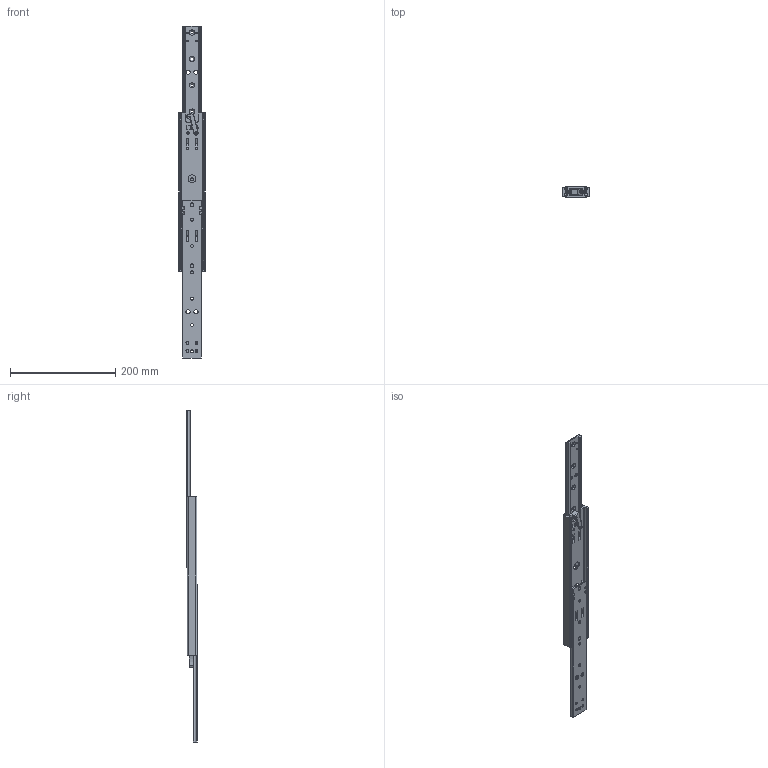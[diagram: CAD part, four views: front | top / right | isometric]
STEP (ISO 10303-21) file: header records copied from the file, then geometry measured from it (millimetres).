
FILE_DESCRIPTION (( 'STEP AP214' ), '1' );
FILE_NAME ('220-300-open.STEP', '2022-03-25T10:33:59', ( '' ), ( '' ), 'SwSTEP 2.0', 'SolidWorks 2021', '' );
FILE_SCHEMA (( 'AUTOMOTIVE_DESIGN' ));
Length unit declared in the file: millimetre
Products named in the file (12): 61_12279_02.STEP; 61_12282.STEP; 61_12280_02_Beam Assembled - Stop Raises .STEP; 370_002_070.STEP; 61_12276.STEP; 301_000_008_Fitted.STEP; 400_000_004.STEP; 61_12719.STEP; 61_12274.STEP; 220-300-open; 61_13331_Pin Fitted.STEP; 61_12278_02.STEP
Assembly tree (27 placements, depth 2):
  220-300-open
    61_12279_02.STEP
    61_12280_02_Beam Assembled - Stop Raises .STEP  x2
    61_13331_Pin Fitted.STEP  x4
    61_12282.STEP
    301_000_008_Fitted.STEP  x2
    61_12274.STEP
    370_002_070.STEP
    61_12719.STEP  x2
    400_000_004.STEP  x8
    61_12278_02.STEP  x4
    61_12276.STEP
Bounding box: 50.7 x 19.75 x 630 mm (x, y, z)
Volume: 173832.5 mm3; surface area: 121966.5 mm2
Topology: 27 solids, 27 shells, 1153 faces, 2965 edges, 1828 vertices
Faces by surface type: cylinder 514, plane 267, sphere 161, torus 93, cone 72, bspline 46
Entity records: 27809 total; most frequent: CARTESIAN_POINT 8599, DIRECTION 4084, ORIENTED_EDGE 3882, EDGE_CURVE 1941, AXIS2_PLACEMENT_3D 1624, VERTEX_POINT 1195, CIRCLE 875, EDGE_LOOP 860
